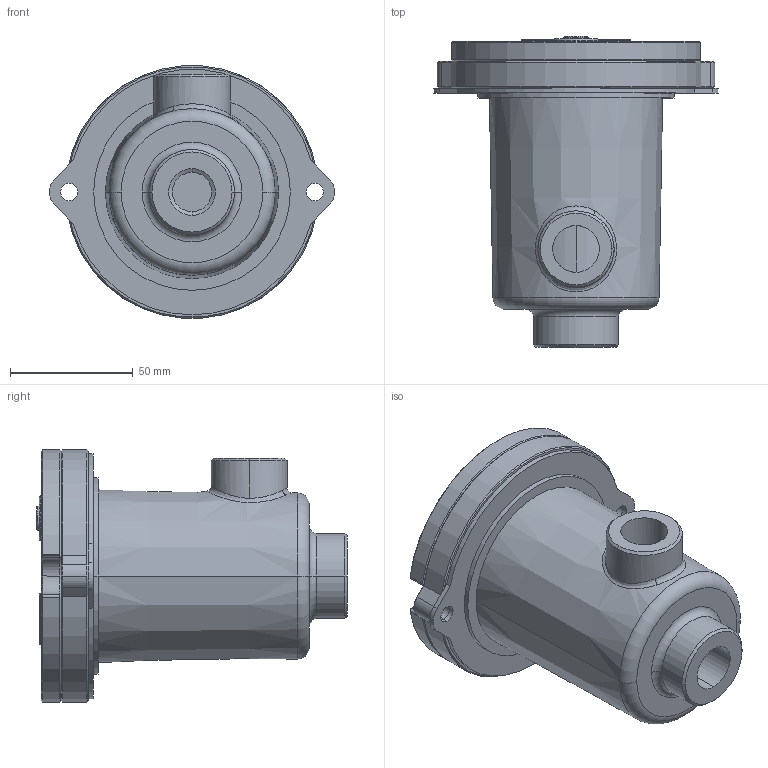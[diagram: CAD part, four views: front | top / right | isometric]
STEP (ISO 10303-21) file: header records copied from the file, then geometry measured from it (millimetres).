
FILE_DESCRIPTION (( 'STEP AP203' ), '1' );
FILE_NAME ('AFR30-N.STEP', '2017-01-10T14:02:18', ( '' ), ( '' ), 'SwSTEP 2.0', 'SolidWorks 2016', '' );
FILE_SCHEMA (( 'CONFIG_CONTROL_DESIGN' ));
Length unit declared in the file: millimetre
Products named in the file (10): AFR30-01; AFR30-N; AFR30-03; BIC-AFR30; OR4287; AFR30-04; GR18-GC; VC-5012; OMTF-MOLLA-1; OR3100
Assembly tree (13 placements, depth 2):
  AFR30-N
    AFR30-01
    AFR30-03
    BIC-AFR30
    OR4287
    AFR30-04
    GR18-GC
    VC-5012  x5
    OMTF-MOLLA-1
    OR3100
Bounding box: 115.94 x 126.5 x 102.65 mm (x, y, z)
Volume: 222739.9 mm3; surface area: 113509 mm2
Topology: 13 solids, 13 shells, 891 faces, 1957 edges, 1105 vertices
Faces by surface type: plane 287, cylinder 262, torus 161, cone 89, sphere 52, bspline 40
Entity records: 24821 total; most frequent: CARTESIAN_POINT 8184, DIRECTION 3674, ORIENTED_EDGE 2978, AXIS2_PLACEMENT_3D 1560, EDGE_CURVE 1489, CIRCLE 877, VERTEX_POINT 853, EDGE_LOOP 754
